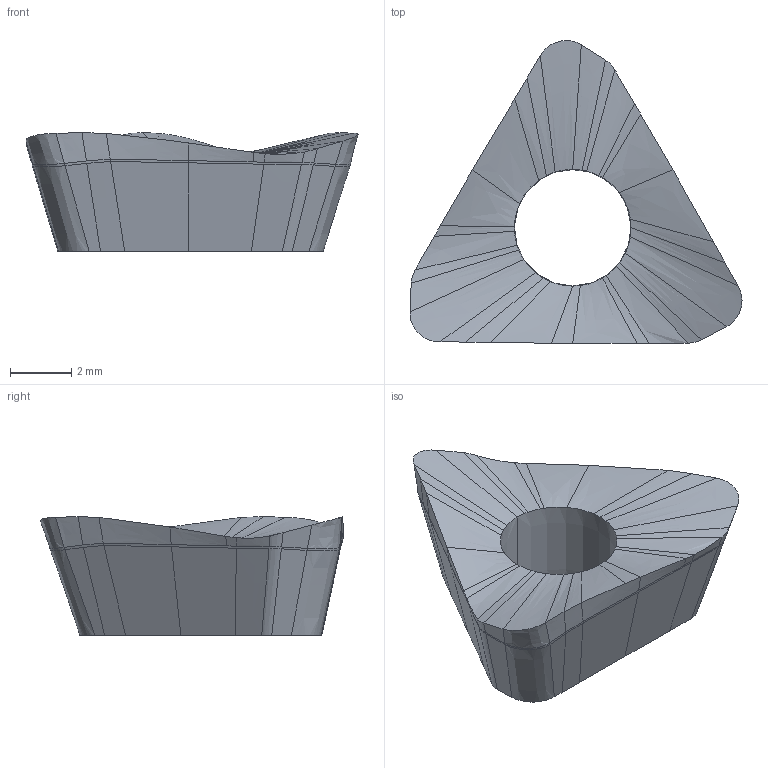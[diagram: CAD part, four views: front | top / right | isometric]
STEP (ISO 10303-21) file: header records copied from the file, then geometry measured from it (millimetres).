
FILE_DESCRIPTION(('CATIA V5 STEP','CAx-IF Rec.Pracs.--- Model Styling and Organization---1.2---2011-12-15'),'2;1');
FILE_NAME('C:\eit\appserv\eitdev\tmp\eit\transmagicconvert\2114451\HM390 TPKT 100310PDR.stp','2017-06-21T11:04:57+00:00',('none'),('none'),'CATIA Version 5 Release 21 SP 5 (IN-10)','CATIA V5 STEP AP214','none');
FILE_SCHEMA(('AUTOMOTIVE_DESIGN { 1 0 10303 214 1 1 1 1 }'));
Length unit declared in the file: millimetre
Products named in the file (1): HM390 TPKT 100310PDR
Bounding box: 10.81 x 9.86 x 3.86 mm (x, y, z)
Volume: 150.5 mm3; surface area: 237.6 mm2
Topology: 1 solids, 1 shells, 98 faces, 260 edges, 164 vertices
Faces by surface type: bspline 95, extrusion 2, plane 1
Entity records: 7167 total; most frequent: CARTESIAN_POINT 5567, ORIENTED_EDGE 466, B_SPLINE_CURVE_WITH_KNOTS 260, EDGE_CURVE 233, VERTEX_POINT 136, EDGE_LOOP 99, ADVANCED_FACE 98, FACE_OUTER_BOUND 98
